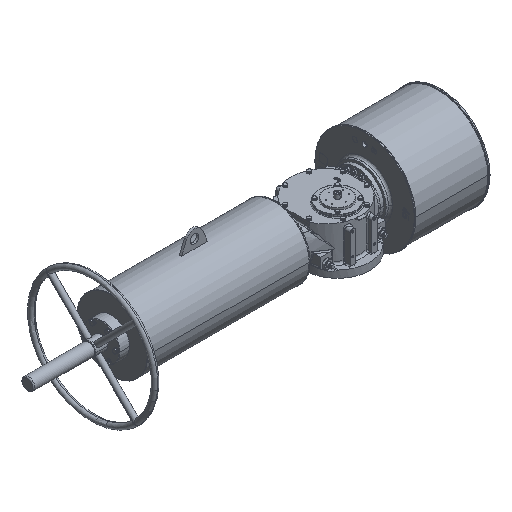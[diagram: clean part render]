
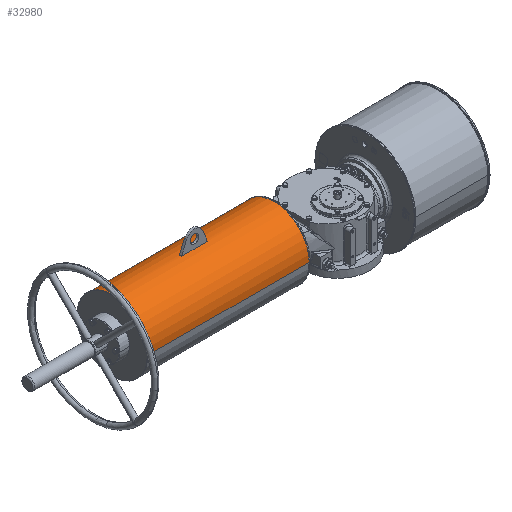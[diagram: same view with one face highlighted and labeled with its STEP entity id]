
A CAD part, isometric view. The second image highlights one B-rep face of the part: STEP entity #32980.
In plain terms, the highlighted cylindrical face has radius 162.5 mm (diameter 325 mm), a partial arc.
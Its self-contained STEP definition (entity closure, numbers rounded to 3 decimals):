
#54 = DIRECTION ( 'NONE',  ( 0., -1., 0. ) ) ;
#2578 = DIRECTION ( 'NONE',  ( -1., 0., 0. ) ) ;
#3676 = CARTESIAN_POINT ( 'NONE',  ( -208., 40.5, 236.923 ) ) ;
#6833 = ORIENTED_EDGE ( 'NONE', *, *, #83585, .T. ) ;
#7753 = CARTESIAN_POINT ( 'NONE',  ( -208., 35.5, 74.5 ) ) ;
#7809 = ORIENTED_EDGE ( 'NONE', *, *, #50448, .T. ) ;
#9684 = CARTESIAN_POINT ( 'NONE',  ( -208., 198., 74.5 ) ) ;
#9884 = VERTEX_POINT ( 'NONE', #13053 ) ;
#9977 = CARTESIAN_POINT ( 'NONE',  ( -205., -127., 74.5 ) ) ;
#13053 = CARTESIAN_POINT ( 'NONE',  ( -639.5, 40.5, 236.923 ) ) ;
#13256 = VERTEX_POINT ( 'NONE', #58289 ) ;
#13593 = CYLINDRICAL_SURFACE ( 'NONE', #67491, 162.5 ) ;
#14675 = CARTESIAN_POINT ( 'NONE',  ( -954., -127., 74.5 ) ) ;
#15150 = EDGE_LOOP ( 'NONE', ( #71862, #7809, #22976, #41278 ) ) ;
#15303 = DIRECTION ( 'NONE',  ( 1., 0., 0. ) ) ;
#18244 = EDGE_LOOP ( 'NONE', ( #42321, #69339, #6833, #37771, #45527, #49065 ) ) ;
#18426 = CIRCLE ( 'NONE', #73769, 162.5 ) ;
#20276 = DIRECTION ( 'NONE',  ( 0., -1., 0. ) ) ;
#20478 = CARTESIAN_POINT ( 'NONE',  ( -519.5, 40.5, 236.923 ) ) ;
#22258 = CARTESIAN_POINT ( 'NONE',  ( -639.5, 35.5, 74.5 ) ) ;
#22976 = ORIENTED_EDGE ( 'NONE', *, *, #86463, .T. ) ;
#24144 = LINE ( 'NONE', #3676, #30690 ) ;
#24855 = DIRECTION ( 'NONE',  ( 1., 0., 0. ) ) ;
#25570 = EDGE_CURVE ( 'NONE', #26820, #13256, #68832, .T. ) ;
#26631 = CARTESIAN_POINT ( 'NONE',  ( -208., 30.5, 236.923 ) ) ;
#26820 = VERTEX_POINT ( 'NONE', #9977 ) ;
#27357 = VECTOR ( 'NONE', #2578, 1000. ) ;
#28124 = CIRCLE ( 'NONE', #52252, 162.5 ) ;
#28225 = DIRECTION ( 'NONE',  ( -1., 0., 0. ) ) ;
#29018 = EDGE_CURVE ( 'NONE', #63031, #9884, #24144, .T. ) ;
#29931 = VECTOR ( 'NONE', #67453, 1000. ) ;
#29992 = CARTESIAN_POINT ( 'NONE',  ( -639.5, 35.5, 237. ) ) ;
#30569 = AXIS2_PLACEMENT_3D ( 'NONE', #73969, #40617, #48164 ) ;
#30690 = VECTOR ( 'NONE', #51677, 1000. ) ;
#32980 = ADVANCED_FACE ( 'NONE', ( #40240, #47789 ), #13593, .T. ) ;
#35251 = CARTESIAN_POINT ( 'NONE',  ( -639.5, 35.5, 74.5 ) ) ;
#37771 = ORIENTED_EDGE ( 'NONE', *, *, #71145, .T. ) ;
#38604 = CARTESIAN_POINT ( 'NONE',  ( -519.5, 35.5, 74.5 ) ) ;
#40240 = FACE_BOUND ( 'NONE', #18244, .T. ) ;
#40617 = DIRECTION ( 'NONE',  ( -1., 0., 0. ) ) ;
#40898 = VERTEX_POINT ( 'NONE', #55365 ) ;
#41278 = ORIENTED_EDGE ( 'NONE', *, *, #83639, .F. ) ;
#42321 = ORIENTED_EDGE ( 'NONE', *, *, #29018, .F. ) ;
#42356 = DIRECTION ( 'NONE',  ( -1., 0., 0. ) ) ;
#45284 = LINE ( 'NONE', #65694, #50865 ) ;
#45527 = ORIENTED_EDGE ( 'NONE', *, *, #75942, .T. ) ;
#45572 = AXIS2_PLACEMENT_3D ( 'NONE', #76160, #15303, #61979 ) ;
#47553 = VERTEX_POINT ( 'NONE', #29992 ) ;
#47705 = EDGE_CURVE ( 'NONE', #63031, #65349, #85360, .T. ) ;
#47789 = FACE_OUTER_BOUND ( 'NONE', #15150, .T. ) ;
#48164 = DIRECTION ( 'NONE',  ( 0., -1., 0. ) ) ;
#48711 = VERTEX_POINT ( 'NONE', #57000 ) ;
#49065 = ORIENTED_EDGE ( 'NONE', *, *, #60141, .T. ) ;
#50448 = EDGE_CURVE ( 'NONE', #13256, #48711, #63456, .T. ) ;
#50865 = VECTOR ( 'NONE', #51956, 1000. ) ;
#51677 = DIRECTION ( 'NONE',  ( -1., 0., 0. ) ) ;
#51956 = DIRECTION ( 'NONE',  ( -1., 0., 0. ) ) ;
#52252 = AXIS2_PLACEMENT_3D ( 'NONE', #38604, #24855, #71042 ) ;
#55048 = VERTEX_POINT ( 'NONE', #64468 ) ;
#55365 = CARTESIAN_POINT ( 'NONE',  ( -519.5, 30.5, 236.923 ) ) ;
#56020 = DIRECTION ( 'NONE',  ( 0., 1., 0. ) ) ;
#57000 = CARTESIAN_POINT ( 'NONE',  ( -954., 198., 74.5 ) ) ;
#58289 = CARTESIAN_POINT ( 'NONE',  ( -205., 198., 74.5 ) ) ;
#60141 = EDGE_CURVE ( 'NONE', #47553, #9884, #18426, .T. ) ;
#60952 = DIRECTION ( 'NONE',  ( 1., 0., 0. ) ) ;
#61979 = DIRECTION ( 'NONE',  ( 0., -1., 0. ) ) ;
#63031 = VERTEX_POINT ( 'NONE', #20478 ) ;
#63456 = LINE ( 'NONE', #9684, #27357 ) ;
#64468 = CARTESIAN_POINT ( 'NONE',  ( -639.5, 30.5, 236.923 ) ) ;
#65349 = VERTEX_POINT ( 'NONE', #87677 ) ;
#65694 = CARTESIAN_POINT ( 'NONE',  ( -208., -127., 74.5 ) ) ;
#67453 = DIRECTION ( 'NONE',  ( -1., 0., 0. ) ) ;
#67491 = AXIS2_PLACEMENT_3D ( 'NONE', #7753, #28225, #20276 ) ;
#67571 = CARTESIAN_POINT ( 'NONE',  ( -519.5, 35.5, 74.5 ) ) ;
#68188 = CIRCLE ( 'NONE', #45572, 162.5 ) ;
#68509 = AXIS2_PLACEMENT_3D ( 'NONE', #35251, #42356, #81929 ) ;
#68832 = CIRCLE ( 'NONE', #30569, 162.5 ) ;
#69339 = ORIENTED_EDGE ( 'NONE', *, *, #47705, .T. ) ;
#71042 = DIRECTION ( 'NONE',  ( 0., -1., 0. ) ) ;
#71145 = EDGE_CURVE ( 'NONE', #40898, #55048, #80363, .T. ) ;
#71862 = ORIENTED_EDGE ( 'NONE', *, *, #25570, .T. ) ;
#73769 = AXIS2_PLACEMENT_3D ( 'NONE', #22258, #76894, #56020 ) ;
#73969 = CARTESIAN_POINT ( 'NONE',  ( -205., 35.5, 74.5 ) ) ;
#74827 = VERTEX_POINT ( 'NONE', #14675 ) ;
#75942 = EDGE_CURVE ( 'NONE', #55048, #47553, #78509, .T. ) ;
#76160 = CARTESIAN_POINT ( 'NONE',  ( -954., 35.5, 74.5 ) ) ;
#76894 = DIRECTION ( 'NONE',  ( -1., 0., 0. ) ) ;
#78509 = CIRCLE ( 'NONE', #68509, 162.5 ) ;
#80363 = LINE ( 'NONE', #26631, #29931 ) ;
#81134 = AXIS2_PLACEMENT_3D ( 'NONE', #67571, #60952, #54 ) ;
#81929 = DIRECTION ( 'NONE',  ( 0., 1., 0. ) ) ;
#83585 = EDGE_CURVE ( 'NONE', #65349, #40898, #28124, .T. ) ;
#83639 = EDGE_CURVE ( 'NONE', #26820, #74827, #45284, .T. ) ;
#85360 = CIRCLE ( 'NONE', #81134, 162.5 ) ;
#86463 = EDGE_CURVE ( 'NONE', #48711, #74827, #68188, .T. ) ;
#87677 = CARTESIAN_POINT ( 'NONE',  ( -519.5, 35.5, 237. ) ) ;
